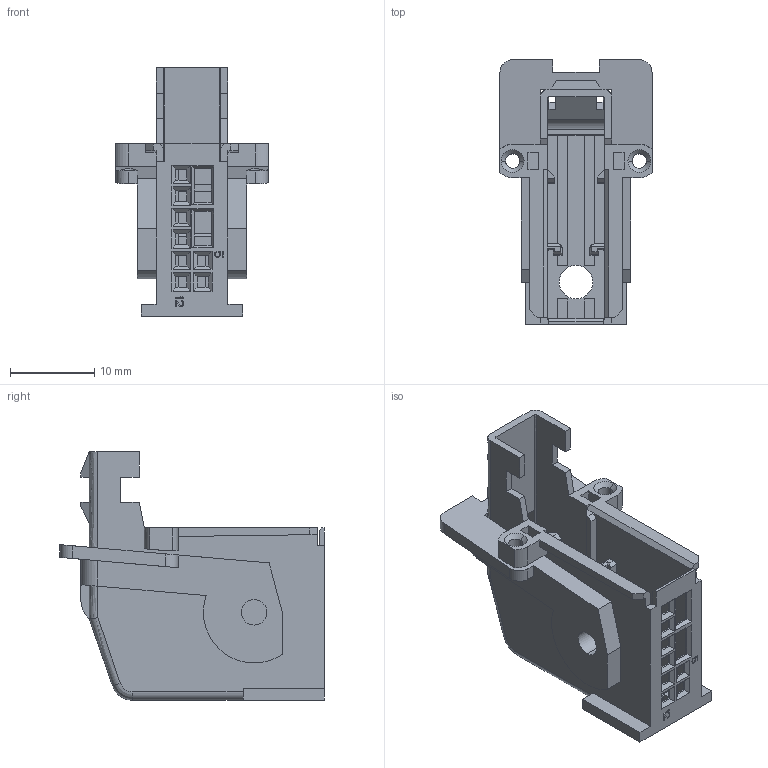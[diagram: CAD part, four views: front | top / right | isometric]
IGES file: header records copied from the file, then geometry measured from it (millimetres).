
Start section:  PTC IGES file: c-185511-1-f-3d.igs
Global section: file name: c-185511-1-f-3d.igs; native system: Pro/ENGINEER by Parametric Technology Corporation; preprocessor: 2007390; author: workeradm; organization: Unknown; units: millimetre
Bounding box: 18 x 31.3 x 29.4 mm (x, y, z)
Surface area: 4684 mm2 (no closed solid volume)
Topology: 0 solids, 0 shells, 383 faces, 2134 edges, 2134 vertices
Faces by surface type: bspline 335, revolution 48
